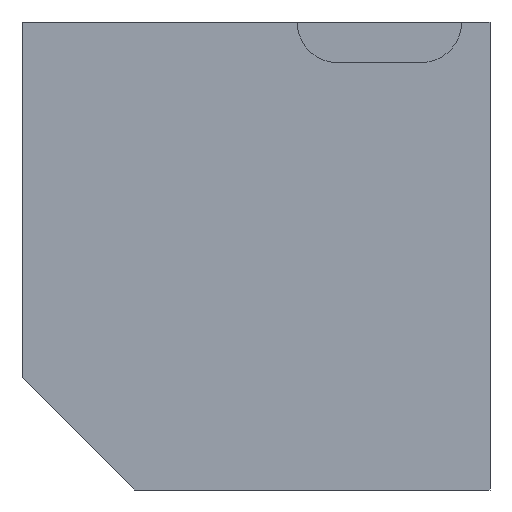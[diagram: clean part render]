
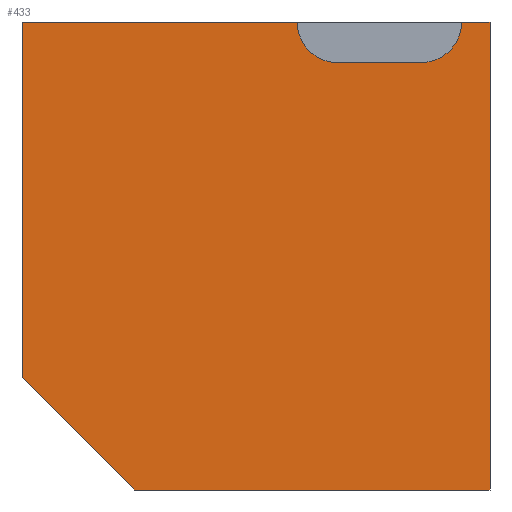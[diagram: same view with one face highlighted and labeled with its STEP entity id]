
A CAD part, front view. The second image highlights one B-rep face of the part: STEP entity #433.
In plain terms, the highlighted planar face has unit normal (0, -1, 0).
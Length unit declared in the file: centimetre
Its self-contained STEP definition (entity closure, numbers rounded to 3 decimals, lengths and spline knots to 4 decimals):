
#10 = EDGE_CURVE ( 'NONE', #227, #610, #264, .T. ) ;
#20 = ORIENTED_EDGE ( 'NONE', *, *, #145, .T. ) ;
#22 = DIRECTION ( 'NONE',  ( 1., 0., 0. ) ) ;
#23 = DIRECTION ( 'NONE',  ( 1., 0., 0. ) ) ;
#35 = CARTESIAN_POINT ( 'NONE',  ( 0., 0., 239.6339 ) ) ;
#39 = ORIENTED_EDGE ( 'NONE', *, *, #10, .F. ) ;
#42 = CARTESIAN_POINT ( 'NONE',  ( 1000., 0., 0. ) ) ;
#47 = LINE ( 'NONE', #103, #462 ) ;
#49 = CIRCLE ( 'NONE', #483, 86.7404 ) ;
#51 = CARTESIAN_POINT ( 'NONE',  ( 1000., 0., 1000. ) ) ;
#58 = EDGE_CURVE ( 'NONE', #597, #413, #440, .T. ) ;
#64 = PLANE ( 'NONE',  #210 ) ;
#66 = VECTOR ( 'NONE', #23, 100. ) ;
#68 = CARTESIAN_POINT ( 'NONE',  ( 674.5889, 0., 913.2597 ) ) ;
#70 = CARTESIAN_POINT ( 'NONE',  ( 0., 0., 1000. ) ) ;
#91 = EDGE_CURVE ( 'NONE', #497, #468, #99, .T. ) ;
#99 = LINE ( 'NONE', #51, #599 ) ;
#103 = CARTESIAN_POINT ( 'NONE',  ( 0., 0., 239.6339 ) ) ;
#106 = DIRECTION ( 'NONE',  ( 1., 0., 0. ) ) ;
#107 = EDGE_CURVE ( 'NONE', #505, #114, #47, .T. ) ;
#114 = VERTEX_POINT ( 'NONE', #580 ) ;
#125 = CARTESIAN_POINT ( 'NONE',  ( 852.4528, 0., 1000. ) ) ;
#145 = EDGE_CURVE ( 'NONE', #597, #505, #481, .T. ) ;
#146 = DIRECTION ( 'NONE',  ( 0., 0., -1. ) ) ;
#152 = CARTESIAN_POINT ( 'NONE',  ( 0., 0., 1000. ) ) ;
#177 = ORIENTED_EDGE ( 'NONE', *, *, #58, .F. ) ;
#178 = CIRCLE ( 'NONE', #414, 86.7404 ) ;
#180 = VECTOR ( 'NONE', #451, 100. ) ;
#185 = EDGE_CURVE ( 'NONE', #114, #468, #382, .T. ) ;
#196 = FACE_OUTER_BOUND ( 'NONE', #330, .T. ) ;
#205 = CARTESIAN_POINT ( 'NONE',  ( 0., 0., 1000. ) ) ;
#206 = CARTESIAN_POINT ( 'NONE',  ( 0., 0., 1000. ) ) ;
#210 = AXIS2_PLACEMENT_3D ( 'NONE', #205, #523, #480 ) ;
#223 = ORIENTED_EDGE ( 'NONE', *, *, #107, .T. ) ;
#227 = VERTEX_POINT ( 'NONE', #446 ) ;
#242 = CARTESIAN_POINT ( 'NONE',  ( 0., 0., 0. ) ) ;
#259 = LINE ( 'NONE', #70, #304 ) ;
#264 = LINE ( 'NONE', #68, #180 ) ;
#268 = CARTESIAN_POINT ( 'NONE',  ( 0., 0., 1000. ) ) ;
#284 = EDGE_CURVE ( 'NONE', #610, #402, #178, .T. ) ;
#304 = VECTOR ( 'NONE', #22, 100. ) ;
#318 = ORIENTED_EDGE ( 'NONE', *, *, #91, .F. ) ;
#322 = EDGE_CURVE ( 'NONE', #402, #497, #259, .T. ) ;
#330 = EDGE_LOOP ( 'NONE', ( #39, #464, #177, #20, #223, #373, #318, #593, #375 ) ) ;
#334 = DIRECTION ( 'NONE',  ( 0., 0., -1. ) ) ;
#373 = ORIENTED_EDGE ( 'NONE', *, *, #185, .T. ) ;
#375 = ORIENTED_EDGE ( 'NONE', *, *, #284, .F. ) ;
#382 = LINE ( 'NONE', #242, #525 ) ;
#390 = CARTESIAN_POINT ( 'NONE',  ( 939.1931, 0., 1000. ) ) ;
#400 = CARTESIAN_POINT ( 'NONE',  ( 852.4528, 0., 913.2597 ) ) ;
#402 = VERTEX_POINT ( 'NONE', #390 ) ;
#409 = CARTESIAN_POINT ( 'NONE',  ( 674.5889, 0., 1000. ) ) ;
#413 = VERTEX_POINT ( 'NONE', #579 ) ;
#414 = AXIS2_PLACEMENT_3D ( 'NONE', #125, #454, #589 ) ;
#421 = VECTOR ( 'NONE', #334, 100. ) ;
#433 = ADVANCED_FACE ( 'NONE', ( #196 ), #64, .F. ) ;
#440 = LINE ( 'NONE', #206, #66 ) ;
#446 = CARTESIAN_POINT ( 'NONE',  ( 674.5889, 0., 913.2597 ) ) ;
#451 = DIRECTION ( 'NONE',  ( 1., 0., 0. ) ) ;
#454 = DIRECTION ( 'NONE',  ( 0., -1., 0. ) ) ;
#462 = VECTOR ( 'NONE', #519, 100. ) ;
#464 = ORIENTED_EDGE ( 'NONE', *, *, #607, .F. ) ;
#468 = VERTEX_POINT ( 'NONE', #42 ) ;
#480 = DIRECTION ( 'NONE',  ( 0., 0., 1. ) ) ;
#481 = LINE ( 'NONE', #152, #421 ) ;
#483 = AXIS2_PLACEMENT_3D ( 'NONE', #409, #530, #585 ) ;
#497 = VERTEX_POINT ( 'NONE', #591 ) ;
#505 = VERTEX_POINT ( 'NONE', #35 ) ;
#519 = DIRECTION ( 'NONE',  ( 0.707, 0., -0.707 ) ) ;
#523 = DIRECTION ( 'NONE',  ( 0., 1., 0. ) ) ;
#525 = VECTOR ( 'NONE', #106, 100. ) ;
#530 = DIRECTION ( 'NONE',  ( 0., -1., 0. ) ) ;
#579 = CARTESIAN_POINT ( 'NONE',  ( 587.8485, 0., 1000. ) ) ;
#580 = CARTESIAN_POINT ( 'NONE',  ( 239.6339, 0., 0. ) ) ;
#585 = DIRECTION ( 'NONE',  ( 0., 0., -1. ) ) ;
#589 = DIRECTION ( 'NONE',  ( 0., 0., -1. ) ) ;
#591 = CARTESIAN_POINT ( 'NONE',  ( 1000., 0., 1000. ) ) ;
#593 = ORIENTED_EDGE ( 'NONE', *, *, #322, .F. ) ;
#597 = VERTEX_POINT ( 'NONE', #268 ) ;
#599 = VECTOR ( 'NONE', #146, 100. ) ;
#607 = EDGE_CURVE ( 'NONE', #413, #227, #49, .T. ) ;
#610 = VERTEX_POINT ( 'NONE', #400 ) ;
